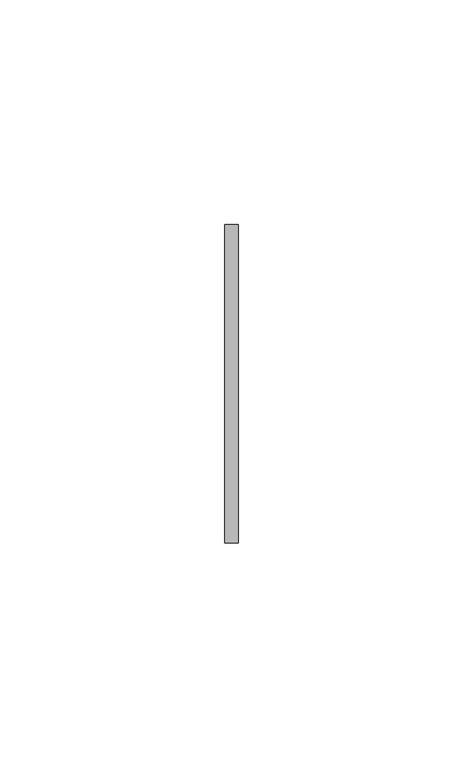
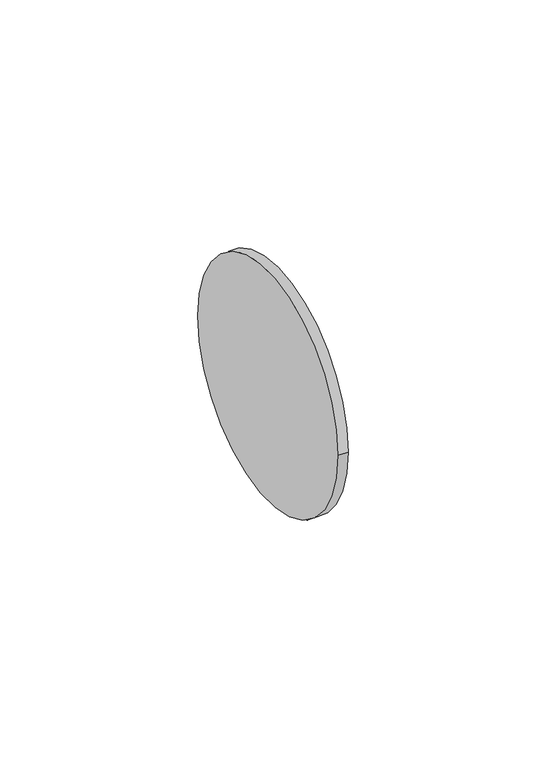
"""IFC4 building model written with IfcOpenShell, lengths in millimetres: pipe fitting geometry, PipeAccessory_GirpiHTA_CPVC_FlatGasketsForFlangeAdaptors : PipeAccessory_GirpiHTA_CPVC_FlatGasketsForFlangeAdaptors."""

from ifc_helpers import new_model, si_unit, point, frame, origin, origin_2d, place, context, project, spatial, circle_curve, trimmed, segment, composite_curve, outline, extrude, source, transform, mapped, element, save


def pipe_fitting_39515eb4(model_context):
    return source(origin(), model_context, "Body", "SweptSolid", [
        extrude(outline(composite_curve([segment(trimmed(circle_curve(origin_2d(), 35.5), [point((-35.5, 0.0))], [point((35.5, 0.0))], False, "CARTESIAN"), True, "CONTINUOUS"), segment(trimmed(circle_curve(origin_2d(), 35.5), [point((35.5, 0.0))], [point((-35.5, 0.0))], False, "CARTESIAN"), True, "CONTINUOUS")], self_intersect=False)), frame((-1.5, 0.0, 0.0), z_axis=(1.0, 0.0, 0.0), x_axis=(0.0, 1.0, 0.0)), (0.0, 0.0, 1.0), 3.0),
    ])


if __name__ == "__main__":
    model = new_model("IFC4")
    model_context = context("Model", 3, world=origin())
    ifc_project = project(units=[si_unit("LENGTHUNIT", "METRE", prefix="MILLI")], contexts=[model_context])
    site = spatial("IfcSite", under=ifc_project)
    building = spatial("IfcBuilding", under=site)
    placement = place(None, origin())
    pipe_fitting_shape = pipe_fitting_39515eb4(model_context)
    element("IfcPipeFitting", 1, ObjectType="PipeAccessory_GirpiHTA_CPVC_FlatGasketsForFlangeAdaptors : PipeAccessory_GirpiHTA_CPVC_FlatGasketsForFlangeAdaptors", at=placement, inside=building, context=model_context, shape_type="MappedRepresentation", body=[
        mapped(pipe_fitting_shape, transform((0.0, 0.0, 0.0), x_axis=(1.0, 0.0, 0.0), y_axis=(0.0, 1.0, 0.0), z_axis=(0.0, 0.0, 1.0))),
    ])
    save(model, "model.ifc")
